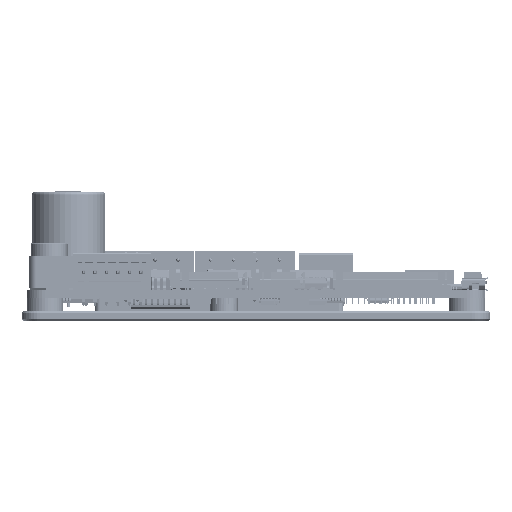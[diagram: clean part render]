
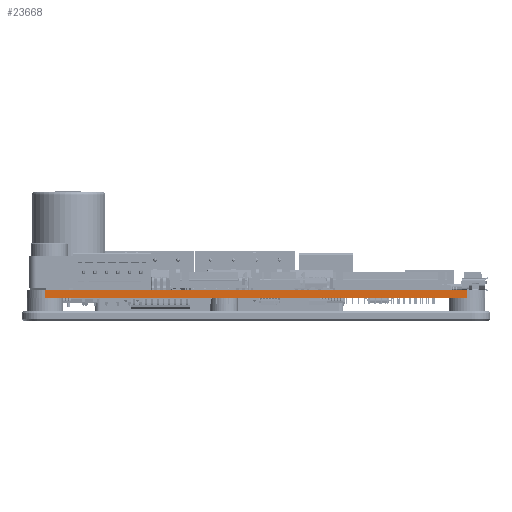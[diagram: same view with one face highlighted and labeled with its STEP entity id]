
A CAD part, left-side view. The second image highlights one B-rep face of the part: STEP entity #23668.
In plain terms, the highlighted planar face has unit normal (-1, 0, 0).
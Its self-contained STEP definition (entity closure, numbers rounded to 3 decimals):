
#8298 = PLANE('',#8299);
#8299 = AXIS2_PLACEMENT_3D('',#8300,#8301,#8302);
#8300 = CARTESIAN_POINT('',(0.037,3.372,0.));
#8301 = DIRECTION('',(0.,0.,-1.));
#8302 = DIRECTION('',(-1.,0.,0.));
#8352 = PLANE('',#8353);
#8353 = AXIS2_PLACEMENT_3D('',#8354,#8355,#8356);
#8354 = CARTESIAN_POINT('',(0.037,3.372,1.61));
#8355 = DIRECTION('',(0.,0.,-1.));
#8356 = DIRECTION('',(-1.,0.,0.));
#20541 = PLANE('',#20542);
#20542 = AXIS2_PLACEMENT_3D('',#20543,#20544,#20545);
#20543 = CARTESIAN_POINT('',(0.,4.,0.));
#20544 = DIRECTION('',(0.998,0.059,0.));
#20545 = DIRECTION('',(0.059,-0.998,0.));
#23559 = PLANE('',#23560);
#23560 = AXIS2_PLACEMENT_3D('',#23561,#23562,#23563);
#23561 = CARTESIAN_POINT('',(0.037,96.628,0.));
#23562 = DIRECTION('',(0.997,-0.078,0.));
#23563 = DIRECTION('',(-0.078,-0.997,0.));
#23597 = VERTEX_POINT('',#23598);
#23598 = CARTESIAN_POINT('',(-0.012,96.,0.));
#23619 = EDGE_CURVE('',#23597,#23620,#23622,.T.);
#23620 = VERTEX_POINT('',#23621);
#23621 = CARTESIAN_POINT('',(-0.012,96.,1.61));
#23622 = SURFACE_CURVE('',#23623,(#23627,#23634),.PCURVE_S1.);
#23623 = LINE('',#23624,#23625);
#23624 = CARTESIAN_POINT('',(-0.012,96.,0.));
#23625 = VECTOR('',#23626,1.);
#23626 = DIRECTION('',(0.,0.,1.));
#23627 = PCURVE('',#23559,#23628);
#23628 = DEFINITIONAL_REPRESENTATION('',(#23629),#23633);
#23629 = LINE('',#23630,#23631);
#23630 = CARTESIAN_POINT('',(0.63,0.));
#23631 = VECTOR('',#23632,1.);
#23632 = DIRECTION('',(0.,-1.));
#23633 = ( GEOMETRIC_REPRESENTATION_CONTEXT(2) 
PARAMETRIC_REPRESENTATION_CONTEXT() REPRESENTATION_CONTEXT('2D SPACE',''
  ) );
#23634 = PCURVE('',#23635,#23640);
#23635 = PLANE('',#23636);
#23636 = AXIS2_PLACEMENT_3D('',#23637,#23638,#23639);
#23637 = CARTESIAN_POINT('',(-0.012,96.,0.));
#23638 = DIRECTION('',(1.,0.,0.));
#23639 = DIRECTION('',(0.,-1.,0.));
#23640 = DEFINITIONAL_REPRESENTATION('',(#23641),#23645);
#23641 = LINE('',#23642,#23643);
#23642 = CARTESIAN_POINT('',(0.,0.));
#23643 = VECTOR('',#23644,1.);
#23644 = DIRECTION('',(0.,-1.));
#23645 = ( GEOMETRIC_REPRESENTATION_CONTEXT(2) 
PARAMETRIC_REPRESENTATION_CONTEXT() REPRESENTATION_CONTEXT('2D SPACE',''
  ) );
#23668 = ADVANCED_FACE('',(#23669),#23635,.F.);
#23669 = FACE_BOUND('',#23670,.T.);
#23670 = EDGE_LOOP('',(#23671,#23694,#23717,#23738));
#23671 = ORIENTED_EDGE('',*,*,#23672,.T.);
#23672 = EDGE_CURVE('',#23597,#23673,#23675,.T.);
#23673 = VERTEX_POINT('',#23674);
#23674 = CARTESIAN_POINT('',(0.,4.,0.));
#23675 = SURFACE_CURVE('',#23676,(#23680,#23687),.PCURVE_S1.);
#23676 = LINE('',#23677,#23678);
#23677 = CARTESIAN_POINT('',(-0.012,96.,0.));
#23678 = VECTOR('',#23679,1.);
#23679 = DIRECTION('',(0.,-1.,0.));
#23680 = PCURVE('',#23635,#23681);
#23681 = DEFINITIONAL_REPRESENTATION('',(#23682),#23686);
#23682 = LINE('',#23683,#23684);
#23683 = CARTESIAN_POINT('',(0.,0.));
#23684 = VECTOR('',#23685,1.);
#23685 = DIRECTION('',(1.,0.));
#23686 = ( GEOMETRIC_REPRESENTATION_CONTEXT(2) 
PARAMETRIC_REPRESENTATION_CONTEXT() REPRESENTATION_CONTEXT('2D SPACE',''
  ) );
#23687 = PCURVE('',#8298,#23688);
#23688 = DEFINITIONAL_REPRESENTATION('',(#23689),#23693);
#23689 = LINE('',#23690,#23691);
#23690 = CARTESIAN_POINT('',(0.049,92.628));
#23691 = VECTOR('',#23692,1.);
#23692 = DIRECTION('',(0.,-1.));
#23693 = ( GEOMETRIC_REPRESENTATION_CONTEXT(2) 
PARAMETRIC_REPRESENTATION_CONTEXT() REPRESENTATION_CONTEXT('2D SPACE',''
  ) );
#23694 = ORIENTED_EDGE('',*,*,#23695,.T.);
#23695 = EDGE_CURVE('',#23673,#23696,#23698,.T.);
#23696 = VERTEX_POINT('',#23697);
#23697 = CARTESIAN_POINT('',(0.,4.,1.61));
#23698 = SURFACE_CURVE('',#23699,(#23703,#23710),.PCURVE_S1.);
#23699 = LINE('',#23700,#23701);
#23700 = CARTESIAN_POINT('',(0.,4.,0.));
#23701 = VECTOR('',#23702,1.);
#23702 = DIRECTION('',(0.,0.,1.));
#23703 = PCURVE('',#23635,#23704);
#23704 = DEFINITIONAL_REPRESENTATION('',(#23705),#23709);
#23705 = LINE('',#23706,#23707);
#23706 = CARTESIAN_POINT('',(92.,0.));
#23707 = VECTOR('',#23708,1.);
#23708 = DIRECTION('',(0.,-1.));
#23709 = ( GEOMETRIC_REPRESENTATION_CONTEXT(2) 
PARAMETRIC_REPRESENTATION_CONTEXT() REPRESENTATION_CONTEXT('2D SPACE',''
  ) );
#23710 = PCURVE('',#20541,#23711);
#23711 = DEFINITIONAL_REPRESENTATION('',(#23712),#23716);
#23712 = LINE('',#23713,#23714);
#23713 = CARTESIAN_POINT('',(0.,0.));
#23714 = VECTOR('',#23715,1.);
#23715 = DIRECTION('',(0.,-1.));
#23716 = ( GEOMETRIC_REPRESENTATION_CONTEXT(2) 
PARAMETRIC_REPRESENTATION_CONTEXT() REPRESENTATION_CONTEXT('2D SPACE',''
  ) );
#23717 = ORIENTED_EDGE('',*,*,#23718,.F.);
#23718 = EDGE_CURVE('',#23620,#23696,#23719,.T.);
#23719 = SURFACE_CURVE('',#23720,(#23724,#23731),.PCURVE_S1.);
#23720 = LINE('',#23721,#23722);
#23721 = CARTESIAN_POINT('',(-0.012,96.,1.61));
#23722 = VECTOR('',#23723,1.);
#23723 = DIRECTION('',(0.,-1.,0.));
#23724 = PCURVE('',#23635,#23725);
#23725 = DEFINITIONAL_REPRESENTATION('',(#23726),#23730);
#23726 = LINE('',#23727,#23728);
#23727 = CARTESIAN_POINT('',(0.,-1.61));
#23728 = VECTOR('',#23729,1.);
#23729 = DIRECTION('',(1.,0.));
#23730 = ( GEOMETRIC_REPRESENTATION_CONTEXT(2) 
PARAMETRIC_REPRESENTATION_CONTEXT() REPRESENTATION_CONTEXT('2D SPACE',''
  ) );
#23731 = PCURVE('',#8352,#23732);
#23732 = DEFINITIONAL_REPRESENTATION('',(#23733),#23737);
#23733 = LINE('',#23734,#23735);
#23734 = CARTESIAN_POINT('',(0.049,92.628));
#23735 = VECTOR('',#23736,1.);
#23736 = DIRECTION('',(0.,-1.));
#23737 = ( GEOMETRIC_REPRESENTATION_CONTEXT(2) 
PARAMETRIC_REPRESENTATION_CONTEXT() REPRESENTATION_CONTEXT('2D SPACE',''
  ) );
#23738 = ORIENTED_EDGE('',*,*,#23619,.F.);
